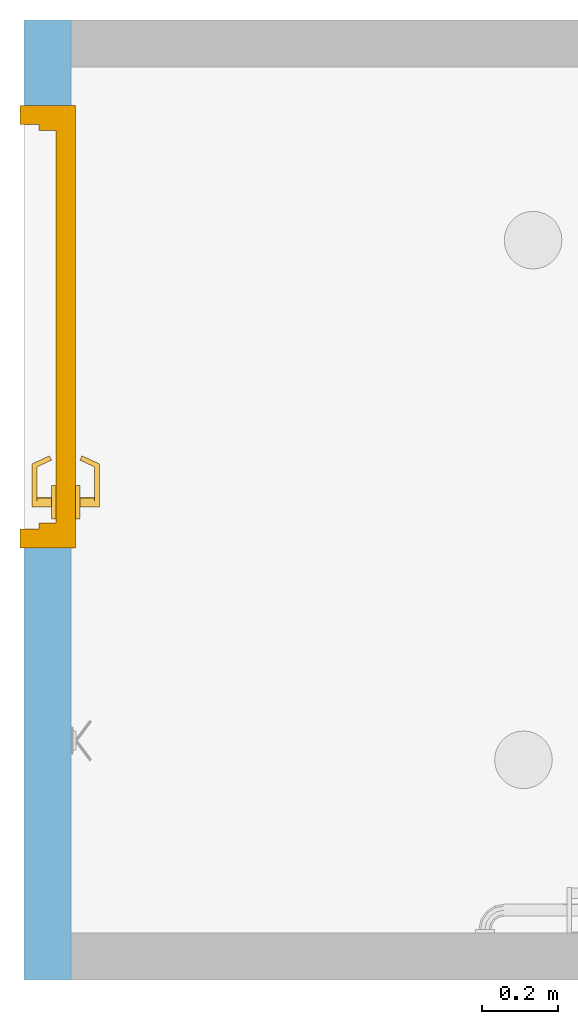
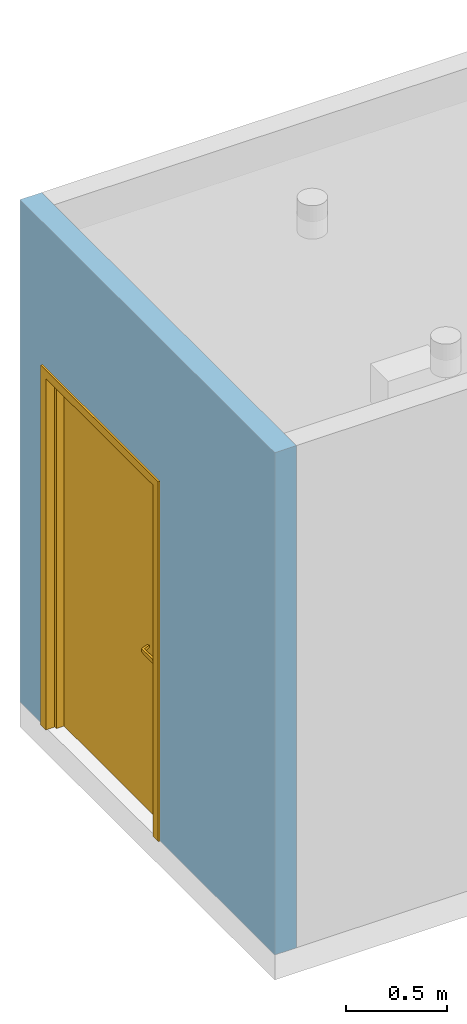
# One storey, part 2 of 7: 1 door, 1 opening, plus 1 element that does not belong to this part.
"""IFC2X3 building model written with IfcOpenShell, lengths in feet."""

from ifc_helpers import new_model, entity, si_unit, converted_unit, derived_unit, direction, frame, frame_2d, origin, place, context, subcontext, project, spatial, rectangle, extrude, faceted_brep, source, transform, mapped, material, layer, layer_set, layer_usage, type_object, type_shapes, element, fill, save


model = new_model("IFC2X3")

# Units and contexts
model_context = context("Model", 3, precision=0.0001, world=origin(), true_north=direction((6.12303176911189e-17, 1.0)))
body_context = subcontext(model_context, "Body", "Model", "MODEL_VIEW")
ifc_project = project(units=[converted_unit("LENGTHUNIT", "FOOT", entity("IfcRatioMeasure", 0.3048), si_unit("LENGTHUNIT", "METRE"), dimensions=[1, 0, 0, 0, 0, 0, 0]), converted_unit("AREAUNIT", "SQUARE FOOT", entity("IfcRatioMeasure", 0.09290304), si_unit("AREAUNIT", "SQUARE_METRE"), dimensions=[2, 0, 0, 0, 0, 0, 0]), converted_unit("VOLUMEUNIT", "CUBIC FOOT", entity("IfcRatioMeasure", 0.028316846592), si_unit("VOLUMEUNIT", "CUBIC_METRE"), dimensions=[3, 0, 0, 0, 0, 0, 0]), converted_unit("PLANEANGLEUNIT", "DEGREE", entity("IfcRatioMeasure", 0.0174532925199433), si_unit("PLANEANGLEUNIT", "RADIAN"), dimensions=[0, 0, 0, 0, 0, 0, 0]), si_unit("MASSUNIT", "GRAM", prefix="KILO"), derived_unit("MASSDENSITYUNIT", [(si_unit("MASSUNIT", "GRAM", prefix="KILO"), 1), (si_unit("LENGTHUNIT", "METRE"), -3)]), si_unit("TIMEUNIT", "SECOND"), si_unit("FREQUENCYUNIT", "HERTZ"), si_unit("THERMODYNAMICTEMPERATUREUNIT", "DEGREE_CELSIUS"), derived_unit("THERMALTRANSMITTANCEUNIT", [(si_unit("MASSUNIT", "GRAM", prefix="KILO"), 1), (si_unit("THERMODYNAMICTEMPERATUREUNIT", "KELVIN"), -1), (si_unit("TIMEUNIT", "SECOND"), -3)]), derived_unit("VOLUMETRICFLOWRATEUNIT", [(si_unit("LENGTHUNIT", "METRE"), 3), (si_unit("TIMEUNIT", "SECOND"), -1)]), si_unit("ELECTRICCURRENTUNIT", "AMPERE"), si_unit("ELECTRICVOLTAGEUNIT", "VOLT"), si_unit("POWERUNIT", "WATT"), si_unit("FORCEUNIT", "NEWTON"), si_unit("ILLUMINANCEUNIT", "LUX"), si_unit("LUMINOUSFLUXUNIT", "LUMEN"), si_unit("LUMINOUSINTENSITYUNIT", "CANDELA"), derived_unit("USERDEFINED", [(si_unit("MASSUNIT", "GRAM", prefix="KILO"), -1), (si_unit("LENGTHUNIT", "METRE"), -2), (si_unit("TIMEUNIT", "SECOND"), 3), (si_unit("LUMINOUSFLUXUNIT", "LUMEN"), 1)]), derived_unit("LINEARVELOCITYUNIT", [(si_unit("LENGTHUNIT", "METRE"), 1), (si_unit("TIMEUNIT", "SECOND"), -1)]), si_unit("PRESSUREUNIT", "PASCAL"), derived_unit("USERDEFINED", [(si_unit("LENGTHUNIT", "METRE"), -2), (si_unit("MASSUNIT", "GRAM", prefix="KILO"), 1), (si_unit("TIMEUNIT", "SECOND"), -2)])], contexts=[model_context])

# Site, building, storey
site_placement = place(None, origin())
site = spatial("IfcSite", under=ifc_project, at=site_placement, Name="Default", CompositionType="ELEMENT")
building_placement = place(site_placement, origin())
building = spatial("IfcBuilding", under=site, at=building_placement, Name="OUTPATIENT / PACT CLINIC (Ch. 265)", CompositionType="ELEMENT")
storey_placement = place(building_placement, origin())
storey = spatial("IfcBuildingStorey", under=building, at=storey_placement, Name="DATUM", CompositionType="ELEMENT", Elevation=0.0)

# Wall, opening, door
ifc_material = material(Name="<Unnamed>")
ifc_layer = layer(ifc_material, 0.40625)
ifc_layer_set = layer_set([ifc_layer], Name="Basic Wall:Interior - 4 7/8\"")
ifc_layer_usage = layer_usage(ifc_layer_set, "AXIS2", "NEGATIVE", 0.203125)
wall_type = type_object("IfcWallType", Name="Basic Wall:Interior - 4 7/8\"", PredefinedType="STANDARD", material=ifc_layer_set)
wall_placement = place(storey_placement, frame((97.1904633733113, -861.564906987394, 0.0), z_axis=(0.0, 0.0, 1.0), x_axis=(0.0, 1.0, 0.0)))
wall = element("IfcWallStandardCase", 1, at=wall_placement, inside=storey, type_object=wall_type, material=ifc_layer_usage, Name="Basic Wall:Interior - 4 7/8\"", ObjectType="Basic Wall:Interior - 4 7/8\"", context=body_context, shape_type="SweptSolid", body=[
    extrude(rectangle(XDim=8.31250000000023, YDim=0.40625, at=frame_2d((4.15625000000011, -2.66453525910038e-15), x_axis=(-1.0, 0.0))), origin(), (0.0, 0.0, 1.0), 10.0),
])
opening_placement = place(wall_placement, frame((7.57291666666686, 0.203124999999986, 0.0)))
opening = element("IfcOpeningElement", 2, at=opening_placement, cuts=wall, Name="Single - Flush:42\" x 84\":1", ObjectType="Opening", context=body_context, shape_type="SweptSolid", body=[
    extrude(rectangle(XDim=3.83333333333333, YDim=7.16666666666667, at=frame_2d((3.58333333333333, 1.91666666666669), x_axis=(0.0, -1.0))), frame((0.0, 0.0, 0.0), z_axis=(0.0, -1.0, 0.0), x_axis=(0.0, 0.0, 1.0)), (0.0, 0.0, 1.0), 0.40625),
])
door_style = type_object("IfcDoorStyle", Name="42\" x 84\"", ConstructionType="NOTDEFINED", OperationType="NOTDEFINED", ParameterTakesPrecedence=False, Sizeable=False)
shared_shape = source(origin(), body_context, "Body", "Brep", [
    faceted_brep([(3.12432039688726, 0.123080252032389, 3.36458333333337), (3.1307112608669, 0.109375, 3.36458333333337), (3.1307112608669, 0.109375, 3.30208333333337), (3.12432039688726, 0.12308025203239, 3.30208333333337), (3.07149311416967, 0.23636872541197, 3.31250000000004), (3.07149311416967, 0.23636872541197, 3.3541666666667), (3.03373028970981, 0.218759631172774, 3.31250000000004), (3.0865575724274, 0.105471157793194, 3.30208333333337), (3.10416666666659, 0.0677083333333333, 3.30208333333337), (3.10416666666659, 0.067708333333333, 3.36458333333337), (3.0865575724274, 0.105471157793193, 3.36458333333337), (3.03373028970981, 0.218759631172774, 3.3541666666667), (3.10416666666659, 0.109375, 3.30208333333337), (3.10416666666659, 0.109375, 3.36458333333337), (3.43619600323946, 0.0677083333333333, 3.29168707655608), (3.44639661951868, 0.0677083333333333, 3.29262754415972), (3.45605949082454, 0.0677083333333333, 3.29602842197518), (3.46460055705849, 0.0677083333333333, 3.3016841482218), (3.47150356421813, 0.0677083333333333, 3.30925286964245), (3.47635126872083, 0.0677083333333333, 3.31827710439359), (3.47885065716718, 0.0677083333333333, 3.32821139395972), (3.47885065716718, 0.0677083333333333, 3.33845527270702), (3.47635126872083, 0.0677083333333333, 3.34838956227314), (3.47150356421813, 0.0677083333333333, 3.35741379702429), (3.46460055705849, 0.0677083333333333, 3.36498251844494), (3.45605949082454, 0.0677083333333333, 3.37063824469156), (3.44639661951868, 0.0677083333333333, 3.37403912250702), (3.43619600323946, 0.0677083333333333, 3.37497959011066), (3.42566985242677, 0.109375, 3.29338137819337), (3.43619600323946, 0.109375, 3.29168707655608), (3.43619600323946, 0.109375, 3.37497959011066), (3.42566985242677, 0.109375, 3.37328528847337), (3.41591827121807, 0.109375, 3.36897516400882), (3.40757973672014, 0.109375, 3.36233141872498), (3.40120020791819, 0.109375, 3.35378904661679), (3.3971973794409, 0.109375, 3.34390735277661), (3.39583333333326, 0.109375, 3.33333333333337), (3.3971973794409, 0.109375, 3.32275931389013), (3.40120020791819, 0.109375, 3.31287762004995), (3.40757973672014, 0.109375, 3.30433524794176), (3.41591827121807, 0.109375, 3.29769150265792), (3.44568224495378, 0.109375, 3.29247795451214), (3.45473886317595, 0.109375, 3.2954000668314), (3.46289592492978, 0.109375, 3.30030065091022), (3.46972778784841, 0.109375, 3.30692347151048), (3.47487870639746, 0.109375, 3.31492291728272), (3.47808054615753, 0.109375, 3.32388185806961), (3.47916666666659, 0.109375, 3.33333333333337), (3.47808054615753, 0.109375, 3.34278480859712), (3.47487870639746, 0.109375, 3.35174374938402), (3.46972778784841, 0.109375, 3.35974319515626), (3.46289592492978, 0.109375, 3.36636601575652), (3.45473886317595, 0.109375, 3.37126659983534), (3.44568224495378, 0.109375, 3.3741887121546), (3.47774690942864, 0.234375, 3.34411746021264), (3.47916666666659, 0.234375, 3.33333333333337), (3.47358439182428, 0.234375, 3.3541666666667), (3.46696278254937, 0.234375, 3.36279611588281), (3.45833333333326, 0.234375, 3.36941772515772), (3.4482841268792, 0.234375, 3.37358024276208), (3.43749999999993, 0.234375, 3.37500000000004), (3.42671587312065, 0.234375, 3.37358024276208), (3.41666666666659, 0.234375, 3.36941772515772), (3.40803721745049, 0.234375, 3.36279611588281), (3.40141560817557, 0.234375, 3.3541666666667), (3.39725309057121, 0.234375, 3.34411746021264), (3.39583333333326, 0.234375, 3.33333333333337), (3.39725309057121, 0.234375, 3.3225492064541), (3.40141560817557, 0.234375, 3.31250000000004), (3.40803721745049, 0.234375, 3.30387055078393), (3.41666666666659, 0.234375, 3.29724894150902), (3.42671587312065, 0.234375, 3.29308642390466), (3.43749999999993, 0.234375, 3.2916666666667), (3.4482841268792, 0.234375, 3.29308642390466), (3.45833333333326, 0.234375, 3.29724894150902), (3.46696278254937, 0.234375, 3.30387055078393), (3.47358439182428, 0.234375, 3.31250000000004), (3.47774690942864, 0.234375, 3.3225492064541), (3.36458333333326, 0.234375, 3.4596287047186), (3.33438026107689, 0.234375, 3.43645307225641), (3.39975555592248, 0.234375, 3.47419751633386), (3.43749999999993, 0.234375, 3.4791666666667), (3.47524444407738, 0.234375, 3.47419751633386), (3.51041666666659, 0.234375, 3.4596287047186), (3.54061973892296, 0.234375, 3.43645307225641), (3.56379537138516, 0.234375, 3.40625000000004), (3.57836418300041, 0.234375, 3.37107777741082), (3.58333333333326, 0.234375, 3.33333333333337), (3.57836418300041, 0.234375, 3.29558888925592), (3.56379537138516, 0.234375, 3.2604166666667), (3.54061973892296, 0.234375, 3.23021359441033), (3.51041666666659, 0.234375, 3.20703796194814), (3.47524444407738, 0.234375, 3.19246915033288), (3.43749999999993, 0.234375, 3.18750000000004), (3.39975555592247, 0.234375, 3.19246915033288), (3.36458333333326, 0.234375, 3.20703796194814), (3.33438026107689, 0.234375, 3.23021359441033), (3.3112046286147, 0.234375, 3.2604166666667), (3.29663581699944, 0.234375, 3.29558888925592), (3.29166666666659, 0.234375, 3.33333333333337), (3.29663581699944, 0.234375, 3.37107777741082), (3.3112046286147, 0.234375, 3.40625000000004), (3.33438026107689, 0.276041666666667, 3.23021359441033), (3.3112046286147, 0.276041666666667, 3.2604166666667), (3.29663581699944, 0.276041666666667, 3.29558888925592), (3.29166666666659, 0.276041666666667, 3.33333333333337), (3.29663581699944, 0.276041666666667, 3.37107777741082), (3.3112046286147, 0.276041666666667, 3.40625000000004), (3.33438026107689, 0.276041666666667, 3.43645307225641), (3.36458333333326, 0.276041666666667, 3.4596287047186), (3.39975555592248, 0.276041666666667, 3.47419751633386), (3.43749999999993, 0.276041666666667, 3.4791666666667), (3.47524444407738, 0.276041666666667, 3.47419751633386), (3.51041666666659, 0.276041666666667, 3.4596287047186), (3.54061973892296, 0.276041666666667, 3.43645307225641), (3.56379537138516, 0.276041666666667, 3.40625000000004), (3.57836418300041, 0.276041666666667, 3.37107777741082), (3.58333333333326, 0.276041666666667, 3.33333333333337), (3.57836418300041, 0.276041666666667, 3.29558888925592), (3.56379537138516, 0.276041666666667, 3.2604166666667), (3.54061973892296, 0.276041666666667, 3.23021359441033), (3.51041666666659, 0.276041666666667, 3.20703796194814), (3.47524444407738, 0.276041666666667, 3.19246915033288), (3.43749999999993, 0.276041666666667, 3.18750000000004), (3.39975555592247, 0.276041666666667, 3.19246915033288), (3.36458333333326, 0.276041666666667, 3.20703796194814)], [[[0, 1, 2, 3, 4, 5]], [[6, 7, 8, 9, 10, 11]], [[3, 2, 12, 8, 7]], [[4, 3, 7, 6]], [[5, 4, 6, 11]], [[0, 5, 11, 10]], [[1, 0, 10, 9, 13]], [[9, 8, 14, 15, 16, 17, 18, 19, 20, 21, 22, 23, 24, 25, 26, 27]], [[28, 29, 12, 2, 1, 13, 30, 31, 32, 33, 34, 35, 36, 37, 38, 39, 40]], [[14, 8, 12, 29]], [[41, 14, 29]], [[42, 15, 41]], [[17, 43, 44]], [[44, 45, 18]], [[42, 43, 16]], [[46, 19, 45]], [[42, 16, 15]], [[15, 14, 41]], [[19, 18, 45]], [[17, 44, 18]], [[17, 16, 43]], [[20, 19, 46]], [[46, 47, 20]], [[48, 21, 47]], [[49, 22, 48]], [[24, 50, 51]], [[51, 52, 25]], [[49, 50, 23]], [[53, 26, 52]], [[24, 23, 50]], [[23, 22, 49]], [[22, 21, 48]], [[27, 26, 53]], [[25, 52, 26]], [[25, 24, 51]], [[27, 53, 30]], [[47, 21, 20]], [[9, 27, 30, 13]], [[54, 48, 55]], [[56, 49, 54]], [[51, 57, 58]], [[56, 57, 50]], [[52, 58, 59]], [[54, 49, 48]], [[48, 47, 55]], [[52, 51, 58]], [[50, 57, 51]], [[50, 49, 56]], [[53, 52, 59]], [[59, 60, 53]], [[61, 30, 60]], [[62, 31, 61]], [[33, 63, 64]], [[64, 65, 34]], [[62, 63, 32]], [[66, 35, 65]], [[62, 32, 31]], [[31, 30, 61]], [[35, 34, 65]], [[33, 64, 34]], [[33, 32, 63]], [[36, 35, 66]], [[60, 30, 53]], [[67, 37, 66]], [[68, 38, 67]], [[40, 69, 70]], [[68, 69, 39]], [[28, 70, 71]], [[67, 38, 37]], [[37, 36, 66]], [[28, 40, 70]], [[39, 69, 40]], [[39, 38, 68]], [[29, 28, 71]], [[71, 72, 29]], [[73, 41, 72]], [[74, 42, 73]], [[44, 75, 76]], [[76, 77, 45]], [[74, 75, 43]], [[55, 46, 77]], [[74, 43, 42]], [[42, 41, 73]], [[46, 45, 77]], [[44, 76, 45]], [[44, 43, 75]], [[47, 46, 55]], [[72, 41, 29]], [[62, 61, 78]], [[79, 62, 78]], [[62, 79, 63]], [[61, 80, 78]], [[80, 61, 60]], [[80, 60, 81]], [[59, 81, 60]], [[81, 59, 82]], [[59, 58, 82]], [[83, 82, 58]], [[57, 83, 58]], [[83, 57, 84]], [[56, 84, 57]], [[85, 84, 56]], [[54, 85, 56]], [[86, 85, 54]], [[86, 54, 55]], [[86, 55, 87]], [[87, 55, 77]], [[87, 77, 88]], [[88, 77, 76]], [[88, 76, 89]], [[90, 89, 76]], [[90, 76, 75]], [[75, 91, 90]], [[75, 74, 91]], [[92, 91, 74]], [[73, 92, 74]], [[73, 93, 92]], [[93, 73, 72]], [[72, 94, 93]], [[71, 94, 72]], [[94, 71, 95]], [[70, 95, 71]], [[96, 95, 70]], [[96, 70, 69]], [[96, 69, 97]], [[97, 69, 68]], [[97, 68, 98]], [[67, 98, 68]], [[99, 98, 67]], [[67, 66, 99]], [[66, 100, 99]], [[100, 66, 65]], [[100, 65, 101]], [[65, 64, 101]], [[63, 101, 64]], [[79, 101, 63]], [[102, 103, 104, 105, 106, 107, 108, 109, 110, 111, 112, 113, 114, 115, 116, 117, 118, 119, 120, 121, 122, 123, 124, 125]], [[116, 86, 87, 117]], [[115, 85, 86, 116]], [[83, 84, 114, 113]], [[115, 114, 84, 85]], [[82, 83, 113, 112]], [[81, 82, 112, 111]], [[110, 80, 81, 111]], [[109, 78, 80, 110]], [[101, 79, 108, 107]], [[109, 108, 79, 78]], [[100, 101, 107, 106]], [[99, 100, 106, 105]], [[104, 98, 99, 105]], [[103, 97, 98, 104]], [[95, 96, 102, 125]], [[103, 102, 96, 97]], [[94, 95, 125, 124]], [[93, 94, 124, 123]], [[122, 92, 93, 123]], [[121, 91, 92, 122]], [[89, 90, 120, 119]], [[121, 120, 90, 91]], [[88, 89, 119, 118]], [[87, 88, 118, 117]]]),
    faceted_brep([(3.12432039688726, 0.595669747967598, 3.30208333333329), (3.13071126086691, 0.609374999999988, 3.30208333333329), (3.13071126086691, 0.609374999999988, 3.36458333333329), (3.12432039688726, 0.595669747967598, 3.36458333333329), (3.07149311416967, 0.482381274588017, 3.35416666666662), (3.07149311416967, 0.482381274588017, 3.31249999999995), (3.03373028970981, 0.499990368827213, 3.35416666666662), (3.0865575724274, 0.613278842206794, 3.36458333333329), (3.10416666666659, 0.651041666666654, 3.36458333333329), (3.10416666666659, 0.651041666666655, 3.30208333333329), (3.0865575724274, 0.613278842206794, 3.30208333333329), (3.03373028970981, 0.499990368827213, 3.31249999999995), (3.10416666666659, 0.609374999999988, 3.36458333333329), (3.10416666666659, 0.609374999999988, 3.30208333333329), (3.43619600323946, 0.651041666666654, 3.37497959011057), (3.44639661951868, 0.651041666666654, 3.37403912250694), (3.45605949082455, 0.651041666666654, 3.37063824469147), (3.46460055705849, 0.651041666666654, 3.36498251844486), (3.47150356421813, 0.651041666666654, 3.35741379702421), (3.47635126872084, 0.651041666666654, 3.34838956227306), (3.47885065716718, 0.651041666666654, 3.33845527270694), (3.47885065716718, 0.651041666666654, 3.32821139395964), (3.47635126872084, 0.651041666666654, 3.31827710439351), (3.47150356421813, 0.651041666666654, 3.30925286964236), (3.4646005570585, 0.651041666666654, 3.30168414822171), (3.45605949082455, 0.651041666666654, 3.2960284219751), (3.44639661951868, 0.651041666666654, 3.29262754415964), (3.43619600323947, 0.651041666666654, 3.291687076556), (3.42566985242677, 0.609374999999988, 3.37328528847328), (3.43619600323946, 0.609374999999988, 3.37497959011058), (3.43619600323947, 0.609374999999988, 3.291687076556), (3.42566985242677, 0.609374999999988, 3.29338137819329), (3.41591827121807, 0.609374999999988, 3.29769150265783), (3.40757973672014, 0.609374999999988, 3.30433524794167), (3.40120020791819, 0.609374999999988, 3.31287762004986), (3.3971973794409, 0.609374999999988, 3.32275931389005), (3.39583333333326, 0.609374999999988, 3.33333333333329), (3.3971973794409, 0.609374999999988, 3.34390735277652), (3.40120020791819, 0.609374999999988, 3.35378904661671), (3.40757973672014, 0.609374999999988, 3.3623314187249), (3.41591827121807, 0.609374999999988, 3.36897516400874), (3.44568224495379, 0.609374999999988, 3.37418871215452), (3.45473886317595, 0.609374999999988, 3.37126659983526), (3.46289592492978, 0.609374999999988, 3.36636601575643), (3.46972778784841, 0.609374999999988, 3.35974319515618), (3.47487870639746, 0.609374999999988, 3.35174374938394), (3.47808054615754, 0.609374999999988, 3.34278480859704), (3.47916666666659, 0.609374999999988, 3.33333333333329), (3.47808054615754, 0.609374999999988, 3.32388185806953), (3.47487870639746, 0.609374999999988, 3.31492291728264), (3.46972778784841, 0.609374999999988, 3.30692347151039), (3.46289592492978, 0.609374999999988, 3.30030065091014), (3.45473886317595, 0.609374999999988, 3.29540006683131), (3.44568224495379, 0.609374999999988, 3.29247795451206), (3.47774690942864, 0.484374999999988, 3.32254920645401), (3.47916666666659, 0.484374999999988, 3.33333333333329), (3.47358439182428, 0.484374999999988, 3.31249999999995), (3.46696278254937, 0.484374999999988, 3.30387055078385), (3.45833333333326, 0.484374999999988, 3.29724894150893), (3.4482841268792, 0.484374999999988, 3.29308642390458), (3.43749999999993, 0.484374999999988, 3.29166666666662), (3.42671587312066, 0.484374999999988, 3.29308642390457), (3.41666666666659, 0.484374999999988, 3.29724894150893), (3.40803721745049, 0.484374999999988, 3.30387055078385), (3.40141560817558, 0.484374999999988, 3.31249999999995), (3.39725309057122, 0.484374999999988, 3.32254920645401), (3.39583333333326, 0.484374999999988, 3.33333333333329), (3.39725309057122, 0.484374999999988, 3.34411746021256), (3.40141560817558, 0.484374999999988, 3.35416666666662), (3.40803721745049, 0.484374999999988, 3.36279611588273), (3.41666666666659, 0.484374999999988, 3.36941772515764), (3.42671587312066, 0.484374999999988, 3.373580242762), (3.43749999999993, 0.484374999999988, 3.37499999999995), (3.4482841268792, 0.484374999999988, 3.373580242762), (3.45833333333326, 0.484374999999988, 3.36941772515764), (3.46696278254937, 0.484374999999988, 3.36279611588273), (3.47358439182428, 0.484374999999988, 3.35416666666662), (3.47774690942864, 0.484374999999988, 3.34411746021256), (3.36458333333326, 0.484374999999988, 3.20703796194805), (3.33438026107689, 0.484374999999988, 3.23021359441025), (3.39975555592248, 0.484374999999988, 3.1924691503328), (3.43749999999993, 0.484374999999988, 3.18749999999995), (3.47524444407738, 0.484374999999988, 3.1924691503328), (3.51041666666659, 0.484374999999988, 3.20703796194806), (3.54061973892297, 0.484374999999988, 3.23021359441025), (3.56379537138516, 0.484374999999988, 3.26041666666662), (3.57836418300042, 0.484374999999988, 3.29558888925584), (3.58333333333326, 0.484374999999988, 3.33333333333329), (3.57836418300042, 0.484374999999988, 3.37107777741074), (3.56379537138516, 0.484374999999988, 3.40624999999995), (3.54061973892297, 0.484374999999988, 3.43645307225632), (3.51041666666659, 0.484374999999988, 3.45962870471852), (3.47524444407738, 0.484374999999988, 3.47419751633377), (3.43749999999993, 0.484374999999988, 3.47916666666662), (3.39975555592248, 0.484374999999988, 3.47419751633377), (3.36458333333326, 0.484374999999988, 3.45962870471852), (3.33438026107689, 0.484374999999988, 3.43645307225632), (3.3112046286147, 0.484374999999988, 3.40624999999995), (3.29663581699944, 0.484374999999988, 3.37107777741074), (3.29166666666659, 0.484374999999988, 3.33333333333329), (3.29663581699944, 0.484374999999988, 3.29558888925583), (3.3112046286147, 0.484374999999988, 3.26041666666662), (3.33438026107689, 0.442708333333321, 3.43645307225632), (3.3112046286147, 0.442708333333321, 3.40624999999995), (3.29663581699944, 0.442708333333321, 3.37107777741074), (3.29166666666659, 0.442708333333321, 3.33333333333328), (3.29663581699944, 0.442708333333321, 3.29558888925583), (3.3112046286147, 0.442708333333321, 3.26041666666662), (3.33438026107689, 0.442708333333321, 3.23021359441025), (3.36458333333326, 0.442708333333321, 3.20703796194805), (3.39975555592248, 0.442708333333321, 3.1924691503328), (3.43749999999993, 0.442708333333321, 3.18749999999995), (3.47524444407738, 0.442708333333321, 3.1924691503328), (3.51041666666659, 0.442708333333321, 3.20703796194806), (3.54061973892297, 0.442708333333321, 3.23021359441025), (3.56379537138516, 0.442708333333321, 3.26041666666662), (3.57836418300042, 0.442708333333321, 3.29558888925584), (3.58333333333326, 0.442708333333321, 3.33333333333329), (3.57836418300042, 0.442708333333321, 3.37107777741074), (3.56379537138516, 0.442708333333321, 3.40624999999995), (3.54061973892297, 0.442708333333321, 3.43645307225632), (3.51041666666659, 0.442708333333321, 3.45962870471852), (3.47524444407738, 0.442708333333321, 3.47419751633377), (3.43749999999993, 0.442708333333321, 3.47916666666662), (3.39975555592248, 0.442708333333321, 3.47419751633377), (3.36458333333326, 0.442708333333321, 3.45962870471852)], [[[0, 1, 2, 3, 4, 5]], [[6, 7, 8, 9, 10, 11]], [[3, 2, 12, 8, 7]], [[4, 3, 7, 6]], [[5, 4, 6, 11]], [[0, 5, 11, 10]], [[1, 0, 10, 9, 13]], [[9, 8, 14, 15, 16, 17, 18, 19, 20, 21, 22, 23, 24, 25, 26, 27]], [[28, 29, 12, 2, 1, 13, 30, 31, 32, 33, 34, 35, 36, 37, 38, 39, 40]], [[14, 8, 12, 29]], [[41, 14, 29]], [[42, 15, 41]], [[17, 43, 44]], [[44, 45, 18]], [[42, 43, 16]], [[46, 19, 45]], [[42, 16, 15]], [[15, 14, 41]], [[19, 18, 45]], [[17, 44, 18]], [[17, 16, 43]], [[20, 19, 46]], [[46, 47, 20]], [[48, 21, 47]], [[49, 22, 48]], [[24, 50, 51]], [[51, 52, 25]], [[49, 50, 23]], [[53, 26, 52]], [[24, 23, 50]], [[23, 22, 49]], [[22, 21, 48]], [[27, 26, 53]], [[25, 52, 26]], [[25, 24, 51]], [[27, 53, 30]], [[47, 21, 20]], [[9, 27, 30, 13]], [[54, 48, 55]], [[56, 49, 54]], [[51, 57, 58]], [[56, 57, 50]], [[52, 58, 59]], [[54, 49, 48]], [[48, 47, 55]], [[52, 51, 58]], [[50, 57, 51]], [[50, 49, 56]], [[53, 52, 59]], [[59, 60, 53]], [[61, 30, 60]], [[62, 31, 61]], [[33, 63, 64]], [[64, 65, 34]], [[62, 63, 32]], [[66, 35, 65]], [[62, 32, 31]], [[31, 30, 61]], [[35, 34, 65]], [[33, 64, 34]], [[33, 32, 63]], [[36, 35, 66]], [[60, 30, 53]], [[67, 37, 66]], [[68, 38, 67]], [[40, 69, 70]], [[68, 69, 39]], [[28, 70, 71]], [[67, 38, 37]], [[37, 36, 66]], [[28, 40, 70]], [[39, 69, 40]], [[39, 38, 68]], [[29, 28, 71]], [[71, 72, 29]], [[73, 41, 72]], [[74, 42, 73]], [[44, 75, 76]], [[76, 77, 45]], [[74, 75, 43]], [[55, 46, 77]], [[74, 43, 42]], [[42, 41, 73]], [[46, 45, 77]], [[44, 76, 45]], [[44, 43, 75]], [[47, 46, 55]], [[72, 41, 29]], [[62, 61, 78]], [[79, 62, 78]], [[62, 79, 63]], [[61, 80, 78]], [[80, 61, 60]], [[80, 60, 81]], [[59, 81, 60]], [[81, 59, 82]], [[59, 58, 82]], [[83, 82, 58]], [[57, 83, 58]], [[83, 57, 84]], [[56, 84, 57]], [[85, 84, 56]], [[54, 85, 56]], [[86, 85, 54]], [[86, 54, 55]], [[86, 55, 87]], [[87, 55, 77]], [[87, 77, 88]], [[88, 77, 76]], [[88, 76, 89]], [[90, 89, 76]], [[90, 76, 75]], [[75, 91, 90]], [[75, 74, 91]], [[92, 91, 74]], [[73, 92, 74]], [[73, 93, 92]], [[93, 73, 72]], [[72, 94, 93]], [[71, 94, 72]], [[94, 71, 95]], [[70, 95, 71]], [[96, 95, 70]], [[96, 70, 69]], [[96, 69, 97]], [[97, 69, 68]], [[97, 68, 98]], [[67, 98, 68]], [[99, 98, 67]], [[67, 66, 99]], [[66, 100, 99]], [[100, 66, 65]], [[100, 65, 101]], [[65, 64, 101]], [[63, 101, 64]], [[79, 101, 63]], [[102, 103, 104, 105, 106, 107, 108, 109, 110, 111, 112, 113, 114, 115, 116, 117, 118, 119, 120, 121, 122, 123, 124, 125]], [[116, 86, 87, 117]], [[115, 85, 86, 116]], [[83, 84, 114, 113]], [[115, 114, 84, 85]], [[82, 83, 113, 112]], [[81, 82, 112, 111]], [[110, 80, 81, 111]], [[109, 78, 80, 110]], [[101, 79, 108, 107]], [[109, 108, 79, 78]], [[100, 101, 107, 106]], [[99, 100, 106, 105]], [[104, 98, 99, 105]], [[103, 97, 98, 104]], [[95, 96, 102, 125]], [[103, 102, 96, 97]], [[94, 95, 125, 124]], [[93, 94, 124, 123]], [[122, 92, 93, 123]], [[121, 91, 92, 122]], [[89, 90, 120, 119]], [[121, 120, 90, 91]], [[88, 89, 119, 118]], [[87, 88, 118, 117]]]),
    faceted_brep([(0.16666666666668, 0.442708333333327, 7.0), (3.66666666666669, 0.442708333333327, 7.0), (3.66666666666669, 0.442708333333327, 0.0), (0.16666666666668, 0.442708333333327, 0.0), (0.16666666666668, 0.276041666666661, 7.0), (0.16666666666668, 0.276041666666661, 0.0), (3.66666666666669, 0.276041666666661, 0.0), (3.66666666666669, 0.276041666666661, 7.0)], [[[0, 1, 2, 3]], [[4, 5, 6, 7]], [[1, 0, 4, 7]], [[2, 1, 7, 6]], [[3, 2, 6, 5]], [[0, 3, 5, 4]]]),
    faceted_brep([(0.166666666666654, 0.442708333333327, 0.0), (0.166666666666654, 0.276041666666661, 0.0), (0.218749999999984, 0.276041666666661, 0.0), (0.218749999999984, 0.130208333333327, 0.0), (0.166666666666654, 0.130208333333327, 0.0), (0.166666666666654, -0.0364583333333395, 0.0), (0.0, -0.0364583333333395, 0.0), (0.0, 0.442708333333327, 0.0), (0.166666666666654, 0.442708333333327, 7.0), (0.166666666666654, 0.276041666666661, 7.0), (3.66666666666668, 0.276041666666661, 7.0), (3.66666666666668, 0.276041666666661, 0.0), (3.61458333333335, 0.27604166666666, 0.0), (3.61458333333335, 0.276041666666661, 6.94791666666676), (0.218749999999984, 0.276041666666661, 6.94791666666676), (0.218749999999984, 0.130208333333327, 6.94791666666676), (3.61458333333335, 0.130208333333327, 6.94791666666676), (3.61458333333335, 0.130208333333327, 0.0), (3.66666666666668, 0.130208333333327, 0.0), (3.66666666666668, 0.130208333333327, 7.0), (0.166666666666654, 0.130208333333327, 7.0), (0.166666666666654, -0.0364583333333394, 7.0), (3.66666666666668, -0.0364583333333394, 7.0), (3.66666666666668, -0.0364583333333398, 0.0), (3.83333333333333, -0.0364583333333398, 0.0), (3.83333333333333, -0.0364583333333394, 7.16666666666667), (0.0, -0.0364583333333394, 7.16666666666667), (0.0, 0.442708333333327, 7.16666666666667), (3.83333333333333, 0.442708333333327, 7.16666666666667), (3.83333333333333, 0.442708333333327, 0.0), (3.66666666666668, 0.442708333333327, 0.0), (3.66666666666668, 0.442708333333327, 7.0)], [[[0, 1, 2, 3, 4, 5, 6, 7]], [[1, 0, 8, 9]], [[2, 1, 9, 10, 11, 12, 13, 14]], [[3, 2, 14, 15]], [[4, 3, 15, 16, 17, 18, 19, 20]], [[5, 4, 20, 21]], [[6, 5, 21, 22, 23, 24, 25, 26]], [[7, 6, 26, 27]], [[0, 7, 27, 28, 29, 30, 31, 8]], [[30, 11, 10, 31]], [[30, 29, 24, 23, 18, 17, 12, 11]], [[12, 17, 16, 13]], [[19, 18, 23, 22]], [[29, 28, 25, 24]], [[10, 9, 8, 31]], [[15, 14, 13, 16]], [[21, 20, 19, 22]], [[25, 28, 27, 26]]]),
])
type_shapes(door_style, [shared_shape])
door_placement = place(opening_placement, frame((0.0, 0.0, 0.0), z_axis=(0.0, 0.0, 1.0), x_axis=(-1.0, 0.0, 0.0)))
door = element("IfcDoor", 3, at=door_placement, inside=storey, type_object=door_style, Name="Single - Flush:42\" x 84\"", ObjectType="42\" x 84\"", OverallHeight=7.16666666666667, OverallWidth=3.83333333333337, context=body_context, shape_type="MappedRepresentation", body=[
    mapped(shared_shape, transform((0.0, 0.0, 0.0), scale=1.0)),
])
fill(opening, door)

save(model, "model.ifc")
